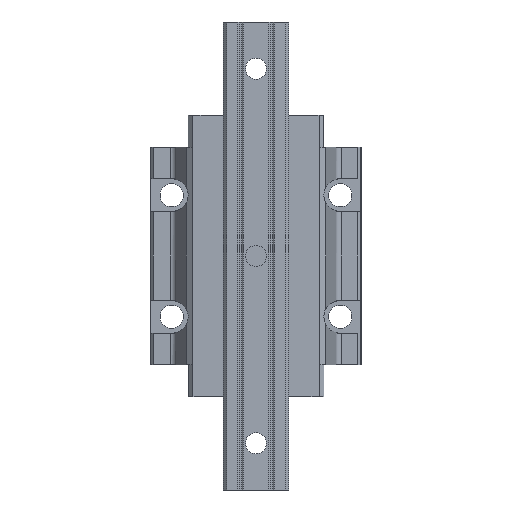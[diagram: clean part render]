
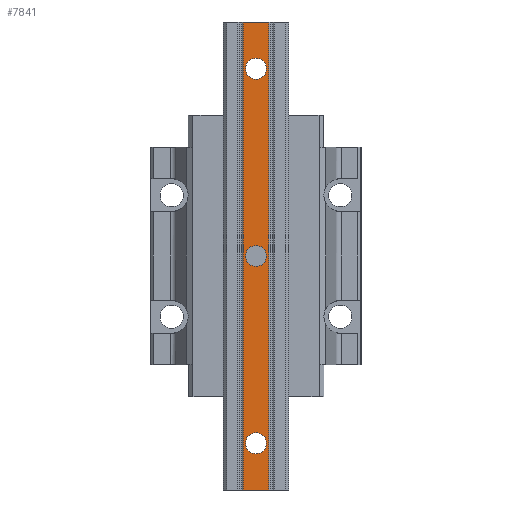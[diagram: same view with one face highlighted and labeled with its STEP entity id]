
A CAD part, front view. The second image highlights one B-rep face of the part: STEP entity #7841.
In plain terms, the highlighted planar face has unit normal (0, -1, 0).
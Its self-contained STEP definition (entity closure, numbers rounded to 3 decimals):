
#6631=DIRECTION('',(-1.,0.,0.));
#6632=VECTOR('',#6631,11.1);
#6633=CARTESIAN_POINT('',(5.55,-26.,-100.));
#6634=LINE('',#6633,#6632);
#6635=DIRECTION('',(0.,0.,-1.));
#6636=VECTOR('',#6635,200.);
#6637=CARTESIAN_POINT('',(5.55,-26.,100.));
#6638=LINE('',#6637,#6636);
#6639=CARTESIAN_POINT('',(0.,-26.,0.));
#6640=DIRECTION('',(0.,-1.,0.));
#6641=DIRECTION('',(1.,0.,0.));
#6642=AXIS2_PLACEMENT_3D('',#6639,#6640,#6641);
#6644=CARTESIAN_POINT('',(0.,-26.,0.));
#6645=DIRECTION('',(0.,-1.,0.));
#6646=DIRECTION('',(-1.,0.,0.));
#6647=AXIS2_PLACEMENT_3D('',#6644,#6645,#6646);
#6649=CARTESIAN_POINT('',(0.,-26.,80.));
#6650=DIRECTION('',(0.,-1.,0.));
#6651=DIRECTION('',(1.,0.,0.));
#6652=AXIS2_PLACEMENT_3D('',#6649,#6650,#6651);
#6654=CARTESIAN_POINT('',(0.,-26.,80.));
#6655=DIRECTION('',(0.,-1.,0.));
#6656=DIRECTION('',(-1.,0.,0.));
#6657=AXIS2_PLACEMENT_3D('',#6654,#6655,#6656);
#6659=CARTESIAN_POINT('',(0.,-26.,-80.));
#6660=DIRECTION('',(0.,-1.,0.));
#6661=DIRECTION('',(1.,0.,0.));
#6662=AXIS2_PLACEMENT_3D('',#6659,#6660,#6661);
#6664=CARTESIAN_POINT('',(0.,-26.,-80.));
#6665=DIRECTION('',(0.,-1.,0.));
#6666=DIRECTION('',(-1.,0.,0.));
#6667=AXIS2_PLACEMENT_3D('',#6664,#6665,#6666);
#6669=DIRECTION('',(0.,0.,-1.));
#6670=VECTOR('',#6669,200.);
#6671=CARTESIAN_POINT('',(-5.55,-26.,100.));
#6672=LINE('',#6671,#6670);
#6931=DIRECTION('',(-1.,0.,0.));
#6932=VECTOR('',#6931,11.1);
#6933=CARTESIAN_POINT('',(5.55,-26.,100.));
#6934=LINE('',#6933,#6932);
#7233=CARTESIAN_POINT('',(-5.55,-26.,-100.));
#7234=VERTEX_POINT('',#7233);
#7235=CARTESIAN_POINT('',(5.55,-26.,-100.));
#7236=VERTEX_POINT('',#7235);
#7313=CARTESIAN_POINT('',(5.55,-26.,100.));
#7314=VERTEX_POINT('',#7313);
#7315=CARTESIAN_POINT('',(-5.55,-26.,100.));
#7316=VERTEX_POINT('',#7315);
#7317=CARTESIAN_POINT('',(4.5,-26.,0.));
#7318=CARTESIAN_POINT('',(-4.5,-26.,0.));
#7319=VERTEX_POINT('',#7317);
#7320=VERTEX_POINT('',#7318);
#7321=CARTESIAN_POINT('',(4.5,-26.,80.));
#7322=CARTESIAN_POINT('',(-4.5,-26.,80.));
#7323=VERTEX_POINT('',#7321);
#7324=VERTEX_POINT('',#7322);
#7325=CARTESIAN_POINT('',(4.5,-26.,-80.));
#7326=CARTESIAN_POINT('',(-4.5,-26.,-80.));
#7327=VERTEX_POINT('',#7325);
#7328=VERTEX_POINT('',#7326);
#7810=CARTESIAN_POINT('',(-5.55,-26.,-100.));
#7811=DIRECTION('',(0.,-1.,0.));
#7812=DIRECTION('',(1.,0.,0.));
#7813=AXIS2_PLACEMENT_3D('',#7810,#7811,#7812);
#7814=PLANE('',#7813);
#7815=ORIENTED_EDGE('',*,*,#7486,.T.);
#7817=ORIENTED_EDGE('',*,*,#7816,.F.);
#7819=ORIENTED_EDGE('',*,*,#7818,.F.);
#7820=ORIENTED_EDGE('',*,*,#7802,.T.);
#7821=EDGE_LOOP('',(#7815,#7817,#7819,#7820));
#7822=FACE_OUTER_BOUND('',#7821,.F.);
#7824=ORIENTED_EDGE('',*,*,#7823,.T.);
#7826=ORIENTED_EDGE('',*,*,#7825,.T.);
#7827=EDGE_LOOP('',(#7824,#7826));
#7828=FACE_BOUND('',#7827,.F.);
#7830=ORIENTED_EDGE('',*,*,#7829,.T.);
#7832=ORIENTED_EDGE('',*,*,#7831,.T.);
#7833=EDGE_LOOP('',(#7830,#7832));
#7834=FACE_BOUND('',#7833,.F.);
#7836=ORIENTED_EDGE('',*,*,#7835,.T.);
#7838=ORIENTED_EDGE('',*,*,#7837,.T.);
#7839=EDGE_LOOP('',(#7836,#7838));
#7840=FACE_BOUND('',#7839,.F.);
#7841=ADVANCED_FACE('',(#7822,#7828,#7834,#7840),#7814,.T.);
#6643=CIRCLE('',#6642,4.5);
#6648=CIRCLE('',#6647,4.5);
#6653=CIRCLE('',#6652,4.5);
#6658=CIRCLE('',#6657,4.5);
#6663=CIRCLE('',#6662,4.5);
#6668=CIRCLE('',#6667,4.5);
#7486=EDGE_CURVE('',#7236,#7234,#6634,.T.);
#7802=EDGE_CURVE('',#7314,#7236,#6638,.T.);
#7816=EDGE_CURVE('',#7316,#7234,#6672,.T.);
#7818=EDGE_CURVE('',#7314,#7316,#6934,.T.);
#7823=EDGE_CURVE('',#7319,#7320,#6643,.T.);
#7825=EDGE_CURVE('',#7320,#7319,#6648,.T.);
#7829=EDGE_CURVE('',#7323,#7324,#6653,.T.);
#7831=EDGE_CURVE('',#7324,#7323,#6658,.T.);
#7835=EDGE_CURVE('',#7327,#7328,#6663,.T.);
#7837=EDGE_CURVE('',#7328,#7327,#6668,.T.);
